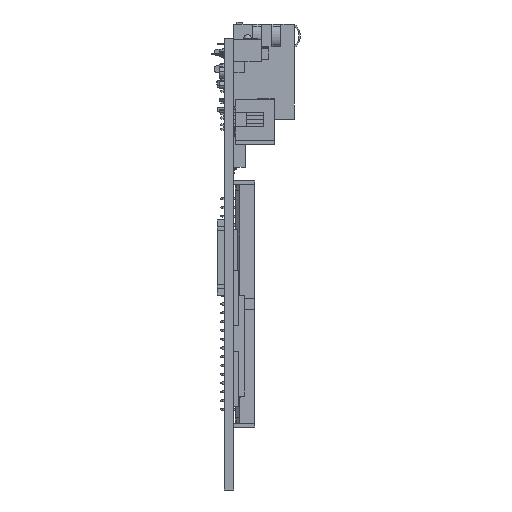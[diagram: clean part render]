
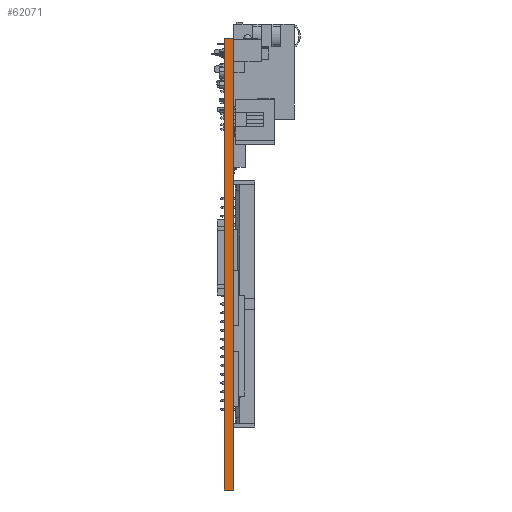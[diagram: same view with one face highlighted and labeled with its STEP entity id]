
A CAD part, front view. The second image highlights one B-rep face of the part: STEP entity #62071.
In plain terms, the highlighted planar face has unit normal (0, -1, 0).
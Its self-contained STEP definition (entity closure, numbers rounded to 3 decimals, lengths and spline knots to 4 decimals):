
#76=DIRECTION('',(0.,0.,-1.));
#77=VECTOR('',#76,4.05);
#78=CARTESIAN_POINT('',(0.085,-0.1262,3.8738));
#79=LINE('',#78,#77);
#2949=DIRECTION('',(0.,0.,-1.));
#2950=VECTOR('',#2949,4.05);
#2951=CARTESIAN_POINT('',(0.,-0.1262,3.8738));
#2952=LINE('',#2951,#2950);
#6215=DIRECTION('',(1.,0.,0.));
#6216=VECTOR('',#6215,0.085);
#6217=CARTESIAN_POINT('',(0.,-0.1262,3.8738));
#6218=LINE('',#6217,#6216);
#6219=DIRECTION('',(1.,0.,0.));
#6220=VECTOR('',#6219,0.085);
#6221=CARTESIAN_POINT('',(0.,-0.1262,-0.1762));
#6222=LINE('',#6221,#6220);
#44666=CARTESIAN_POINT('',(0.,-0.1262,3.8738));
#44668=VERTEX_POINT('',#44666);
#44669=CARTESIAN_POINT('',(0.,-0.1262,-0.1762));
#44670=VERTEX_POINT('',#44669);
#44673=CARTESIAN_POINT('',(0.085,-0.1262,3.8738));
#44674=CARTESIAN_POINT('',(0.085,-0.1262,-0.1762));
#44675=VERTEX_POINT('',#44673);
#44676=VERTEX_POINT('',#44674);
#62059=CARTESIAN_POINT('',(0.,-0.1262,3.8738));
#62060=DIRECTION('',(0.,-1.,0.));
#62061=DIRECTION('',(0.,0.,-1.));
#62062=AXIS2_PLACEMENT_3D('',#62059,#62060,#62061);
#62063=PLANE('',#62062);
#62064=ORIENTED_EDGE('',*,*,#59469,.F.);
#62065=ORIENTED_EDGE('',*,*,#61056,.T.);
#62066=ORIENTED_EDGE('',*,*,#57657,.T.);
#62068=ORIENTED_EDGE('',*,*,#62067,.F.);
#62069=EDGE_LOOP('',(#62064,#62065,#62066,#62068));
#62070=FACE_OUTER_BOUND('',#62069,.F.);
#62071=ADVANCED_FACE('',(#62070),#62063,.T.);
#57657=EDGE_CURVE('',#44675,#44676,#79,.T.);
#59469=EDGE_CURVE('',#44668,#44670,#2952,.T.);
#61056=EDGE_CURVE('',#44668,#44675,#6218,.T.);
#62067=EDGE_CURVE('',#44670,#44676,#6222,.T.);
